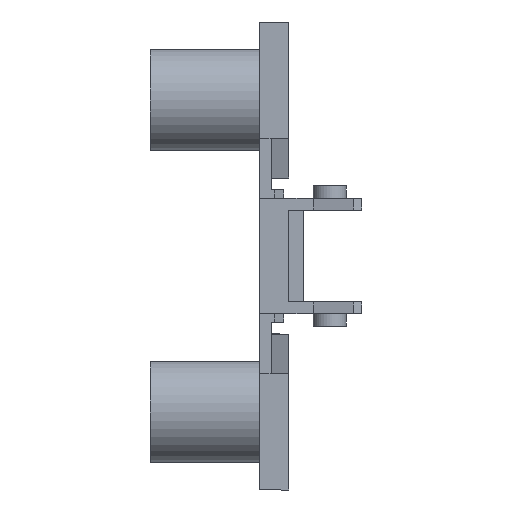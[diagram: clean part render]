
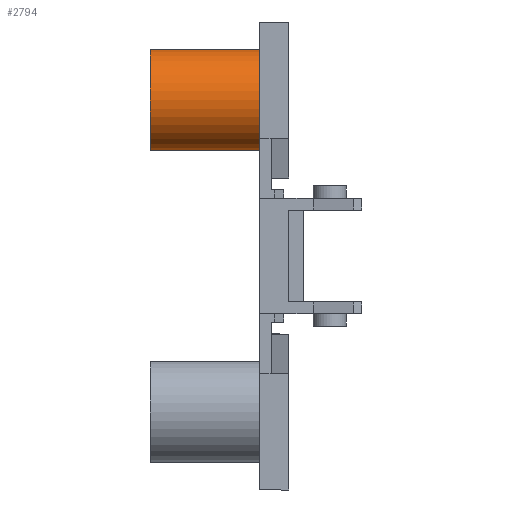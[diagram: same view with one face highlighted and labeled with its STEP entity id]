
A CAD part, front view. The second image highlights one B-rep face of the part: STEP entity #2794.
In plain terms, the highlighted cylindrical face has radius 5.2 mm (diameter 10.4 mm), a partial arc.
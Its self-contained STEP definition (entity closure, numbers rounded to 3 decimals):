
#159 = DIRECTION ( 'NONE',  ( 1., 0., 0. ) ) ;
#162 = DIRECTION ( 'NONE',  ( 0., 0., -1. ) ) ;
#170 = CARTESIAN_POINT ( 'NONE',  ( -11.2, 0., 16. ) ) ;
#414 = EDGE_LOOP ( 'NONE', ( #448, #447, #446, #445 ) ) ;
#445 = ORIENTED_EDGE ( 'NONE', *, *, #1124, .T. ) ;
#446 = ORIENTED_EDGE ( 'NONE', *, *, #1004, .T. ) ;
#447 = ORIENTED_EDGE ( 'NONE', *, *, #1022, .F. ) ;
#448 = ORIENTED_EDGE ( 'NONE', *, *, #1434, .F. ) ;
#1004 = EDGE_CURVE ( 'NONE', #1481, #1482, #3408, .T. ) ;
#1022 = EDGE_CURVE ( 'NONE', #1481, #1480, #3437, .T. ) ;
#1124 = EDGE_CURVE ( 'NONE', #1482, #1472, #3566, .T. ) ;
#1128 = AXIS2_PLACEMENT_3D ( 'NONE', #1880, #1882, #1883 ) ;
#1400 = AXIS2_PLACEMENT_3D ( 'NONE', #1730, #1731, #1732 ) ;
#1425 = AXIS2_PLACEMENT_3D ( 'NONE', #170, #159, #162 ) ;
#1434 = EDGE_CURVE ( 'NONE', #1480, #1472, #2693, .T. ) ;
#1472 = VERTEX_POINT ( 'NONE', #2353 ) ;
#1480 = VERTEX_POINT ( 'NONE', #2362 ) ;
#1481 = VERTEX_POINT ( 'NONE', #2345 ) ;
#1482 = VERTEX_POINT ( 'NONE', #2363 ) ;
#1706 = CARTESIAN_POINT ( 'NONE',  ( -11.2, 0., 10.8 ) ) ;
#1709 = DIRECTION ( 'NONE',  ( 1., 0., 0. ) ) ;
#1730 = CARTESIAN_POINT ( 'NONE',  ( -11.2, 0., 16. ) ) ;
#1731 = DIRECTION ( 'NONE',  ( -1., 0., 0. ) ) ;
#1732 = DIRECTION ( 'NONE',  ( 0., 0., 1. ) ) ;
#1880 = CARTESIAN_POINT ( 'NONE',  ( 0., 0., 16. ) ) ;
#1882 = DIRECTION ( 'NONE',  ( -1., 0., 0. ) ) ;
#1883 = DIRECTION ( 'NONE',  ( 0., 0., -1. ) ) ;
#2310 = CARTESIAN_POINT ( 'NONE',  ( -11.2, 0., 21.2 ) ) ;
#2311 = DIRECTION ( 'NONE',  ( 1., 0., 0. ) ) ;
#2345 = CARTESIAN_POINT ( 'NONE',  ( -11.2, 0., 10.8 ) ) ;
#2353 = CARTESIAN_POINT ( 'NONE',  ( 0., 0., 21.2 ) ) ;
#2362 = CARTESIAN_POINT ( 'NONE',  ( -11.2, 0., 21.2 ) ) ;
#2363 = CARTESIAN_POINT ( 'NONE',  ( 0., 0., 10.8 ) ) ;
#2693 = LINE ( 'NONE', #2310, #2694 ) ;
#2694 = VECTOR ( 'NONE', #2311, 1000. ) ;
#2794 = ADVANCED_FACE ( 'NONE', ( #3251 ), #3253, .T. ) ;
#3251 = FACE_OUTER_BOUND ( 'NONE', #414, .T. ) ;
#3253 = CYLINDRICAL_SURFACE ( 'NONE', #1425, 5.2 ) ;
#3408 = LINE ( 'NONE', #1706, #3413 ) ;
#3413 = VECTOR ( 'NONE', #1709, 1000. ) ;
#3437 = CIRCLE ( 'NONE', #1400, 5.2 ) ;
#3566 = CIRCLE ( 'NONE', #1128, 5.2 ) ;
